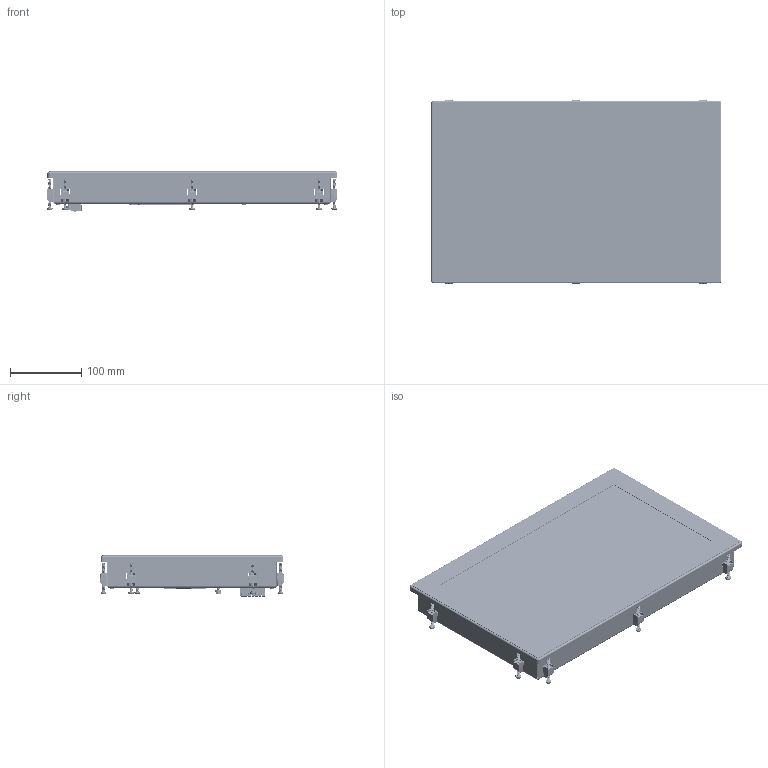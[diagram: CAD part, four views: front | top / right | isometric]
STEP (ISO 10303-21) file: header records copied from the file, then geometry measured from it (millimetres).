
FILE_DESCRIPTION(/* description */ (''),/* implementation_level */ '2;1');
FILE_NAME(/* name */ 'WP830-HD_res.stp',/* time_stamp */ '2026-06-16T15:17:02+02:00',/* author */ ('ut3'),/* organization */ (''),/* preprocessor_version */ 'ST-DEVELOPER v20.1',/* originating_system */ 'Autodesk Inventor 2026',/* authorisation */ '');
FILE_SCHEMA (('AUTOMOTIVE_DESIGN { 1 0 10303 214 3 1 1 }'));
Products named in the file (157): WP830-HD; 0910.00.092; LCD_15.6_HD; RTP_15.6; RTP_15.6_1; Flat_RPT_15.6; Conn_Flat_4p; 1300.20.528_V4; 1300_20_528_v4; 1300.20.578_v1_Guarnizione; 1300_20_496_v3; 1600.00.125; 1600_00_105; 1300_20_529_v5; 1300_20_529_v5_1; M4_FTTC_C-128; M3_FTR-67; DiscoMasc-10; 1900_00_307_V1; 1600_00_165; 1600_00_166; 1600_00_167; 0; 0_1; 0_2; 0_3; 0_4; 0_5; •WÜX2\20AC2022\X0\iƒ³6.
3 SIZE CODE D; •WÜX2\20AC\X0\SIZE CODE D-001; •WÜX2\20AC\X0\SIZE CODE D-002; •WÜX2\20AC\X0\SIZE CODE D-003; ASSEMBLY; Fillet1; Fillet2; body2; ASSEMBLY_1; Body; FilletPin1; FilletPin2 ...
Assembly tree (230 placements, depth 4):
  WP830-HD
    0910.00.092
      LCD_15.6_HD
      RTP_15.6
        RTP_15.6_1
        Flat_RPT_15.6
        Conn_Flat_4p
    1300.20.528_V4
      1300_20_528_v4
      1300.20.578_v1_Guarnizione
    1300_20_496_v3  x2
    1600.00.125  x10
    1600_00_105  x6
    1300_20_529_v5
      1300_20_529_v5_1
      DiscoMasc-10  x3
      M4_FTTC_C-128
      M3_FTR-67
    1900_00_307_V1
    1600_00_165
    1600_00_166
    1600_00_167
    ISO 7045 - M3 x 5 - 4.8 - H  x12
    0
      0_1
        0_2
      0_3
      0_4
      0_5
      ASSEMBLY  x3
        Fillet1
        Fillet2
        body2
      ASSEMBLY_22  x9
        Fillet1_2
        Fillet2_2
        body2_2
      •WÜX2\20AC2022\X0\iƒ³6.
3 SIZE CODE D
        •WÜX2\20AC\X0\SIZE CODE D-001
        •WÜX2\20AC\X0\SIZE CODE D-003  x2
        •WÜX2\20AC\X0\SIZE CODE D-002
      ASSEMBLY_1  x2
        Body
        FilletPin1
        FilletPin2
      ASSEMBLY_2
        Body_1
        FilletPin1_1
        FilletPin2_1
      0_6
      0_7
      ASSEMBLY_3  x2
        Body_2
        PinsArrayL
        FilletPinR
      ASSEMBLY_4
        term1
        term2
        body_3
      ASSEMBLY_5
Bounding box: 409.05 x 258 x 57.8 mm (x, y, z)
Volume: 499475.1 mm3; surface area: 875028.7 mm2
Topology: 924 solids, 1002 shells, 14250 faces, 35842 edges, 23523 vertices
Faces by surface type: plane 7756, cylinder 4772, bspline 973, sphere 331, cone 267, torus 151
Full cylindrical faces by diameter (mm): 0 x1, 0.156 x1, 0.163 x2, 0.254 x7, 0.345 x1, 0.406 x140, 0.457 x1, 0.5 x3, 0.508 x12, 0.6 x16, 0.65 x2, 0.66 x33, 0.75 x2, 0.762 x58, 0.8 x4, 0.85 x2, 0.875 x1, 0.889 x25, 1.016 x28, 1.118 x79, 1.2 x4, 1.4 x7, 1.416 x2, 1.651 x12, 2.032 x36, 2.432 x2, 2.459 x29, 2.5 x8, 2.729 x13, 2.8 x38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
Entity records: 339327 total; most frequent: CARTESIAN_POINT 102453, DIRECTION 47207, ORIENTED_EDGE 45564, EDGE_CURVE 22861, LINE 16121, VECTOR 16121, AXIS2_PLACEMENT_3D 15543, VERTEX_POINT 15189
